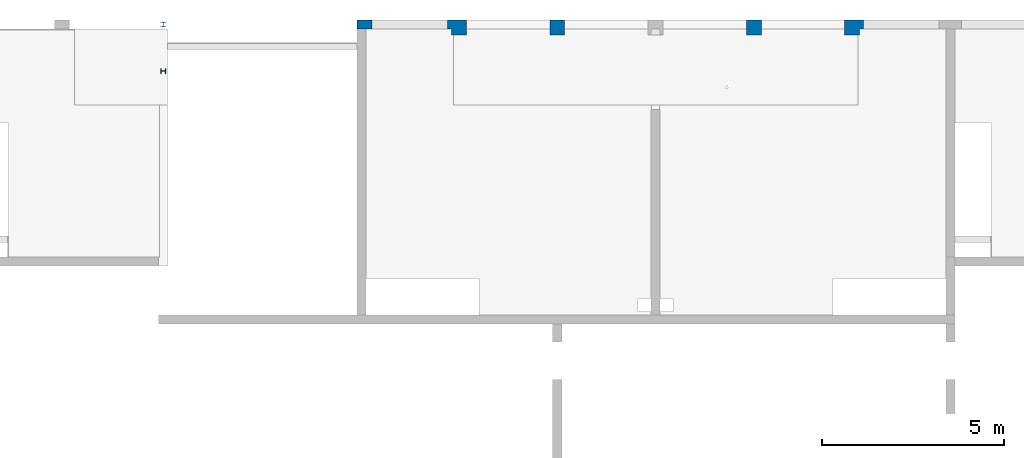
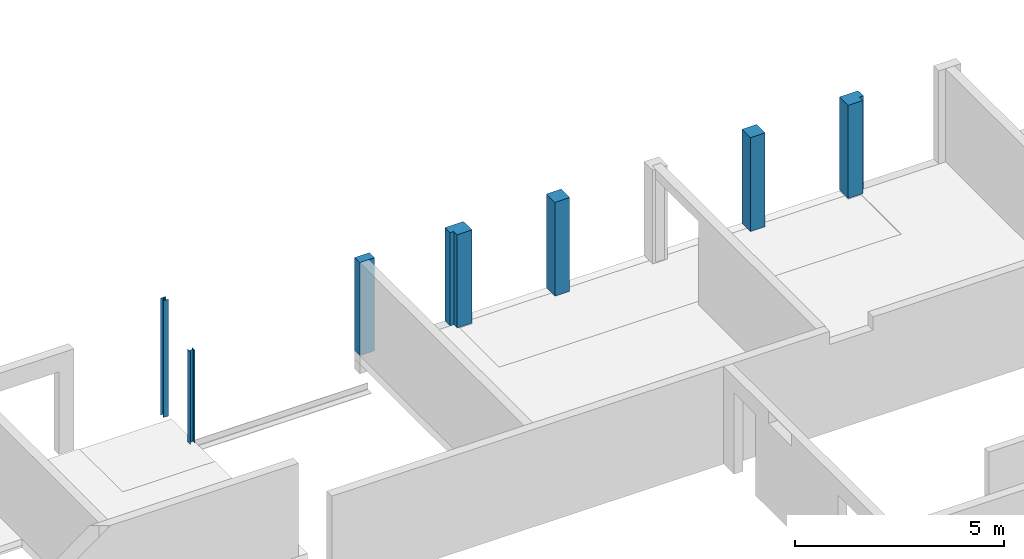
# One storey, part 4 of 22: 7 columns.
"""IFC2X3 building model written with IfcOpenShell, lengths in millimetres."""

from ifc_helpers import new_model, entity, si_unit, converted_unit, derived_unit, direction, frame, frame_2d, origin, origin_2d_with_axis, place, context, subcontext, project, spatial, polyline, circle_curve, parameter, trimmed, segment, composite_curve, rectangle, i_section, outline, extrude, source, transform, mapped, material, type_object, type_shapes, element, save


model = new_model("IFC2X3")

# Units and contexts
model_context = context("Model", 3, precision=0.01, world=origin(), true_north=direction((6.12303176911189e-17, 1.0)))
body_context = subcontext(model_context, "Body", "Model", "MODEL_VIEW")
ifc_project = project(units=[si_unit("LENGTHUNIT", "METRE", prefix="MILLI"), si_unit("AREAUNIT", "SQUARE_METRE"), si_unit("VOLUMEUNIT", "CUBIC_METRE"), converted_unit("PLANEANGLEUNIT", "DEGREE", entity("IfcRatioMeasure", 0.0174532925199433), si_unit("PLANEANGLEUNIT", "RADIAN"), dimensions=[0, 0, 0, 0, 0, 0, 0]), si_unit("MASSUNIT", "GRAM", prefix="KILO"), derived_unit("MASSDENSITYUNIT", [(si_unit("MASSUNIT", "GRAM", prefix="KILO"), 1), (si_unit("LENGTHUNIT", "METRE"), -3)]), si_unit("TIMEUNIT", "SECOND"), si_unit("FREQUENCYUNIT", "HERTZ"), si_unit("THERMODYNAMICTEMPERATUREUNIT", "DEGREE_CELSIUS"), derived_unit("THERMALTRANSMITTANCEUNIT", [(si_unit("MASSUNIT", "GRAM", prefix="KILO"), 1), (si_unit("THERMODYNAMICTEMPERATUREUNIT", "KELVIN"), -1), (si_unit("TIMEUNIT", "SECOND"), -3)]), derived_unit("VOLUMETRICFLOWRATEUNIT", [(si_unit("LENGTHUNIT", "METRE"), 3), (si_unit("TIMEUNIT", "SECOND"), -1)]), si_unit("ELECTRICCURRENTUNIT", "AMPERE"), si_unit("ELECTRICVOLTAGEUNIT", "VOLT"), si_unit("POWERUNIT", "WATT"), si_unit("FORCEUNIT", "NEWTON", prefix="KILO"), si_unit("ILLUMINANCEUNIT", "LUX"), si_unit("LUMINOUSFLUXUNIT", "LUMEN"), si_unit("LUMINOUSINTENSITYUNIT", "CANDELA"), derived_unit("USERDEFINED", [(si_unit("MASSUNIT", "GRAM", prefix="KILO"), -1), (si_unit("LENGTHUNIT", "METRE"), -2), (si_unit("TIMEUNIT", "SECOND"), 3), (si_unit("LUMINOUSFLUXUNIT", "LUMEN"), 1)]), derived_unit("LINEARVELOCITYUNIT", [(si_unit("LENGTHUNIT", "METRE"), 1), (si_unit("TIMEUNIT", "SECOND"), -1)]), si_unit("PRESSUREUNIT", "PASCAL"), derived_unit("USERDEFINED", [(si_unit("LENGTHUNIT", "METRE"), -2), (si_unit("MASSUNIT", "GRAM", prefix="KILO"), 1), (si_unit("TIMEUNIT", "SECOND"), -2)])], contexts=[model_context])

# Site, building, storey
site_placement = place(None, origin())
site = spatial("IfcSite", under=ifc_project, at=site_placement, Name="Default", CompositionType="ELEMENT")
building_placement = place(site_placement, origin())
building = spatial("IfcBuilding", under=site, at=building_placement, Name="niet gebruiken", CompositionType="ELEMENT")
storey_placement = place(building_placement, frame((0.0, 0.0, 9630.0)))
storey = spatial("IfcBuildingStorey", under=building, at=storey_placement, Name="03 derde verdieping", CompositionType="ELEMENT", Elevation=9630.00000000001)

# Columns
ifc_material_1 = material(Name="NLRS_f2_beton ihwg")
column_type_1 = type_object("IfcColumnType", Name="410x410", PredefinedType="COLUMN", material=ifc_material_1)
shared_shape_1 = source(origin(), body_context, "Body", "SweptSolid", [
    extrude(rectangle(XDim=410.000000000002, YDim=410.000000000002, at=origin_2d_with_axis()), frame((43200.0, 53051.0, 9520.0), z_axis=(0.0, 0.0, 1.0), x_axis=(0.0, -1.0, 0.0)), (0.0, 0.0, 1.0), 2740.0),
])
type_shapes(column_type_1, [shared_shape_1])
column_1_placement = place(storey_placement, frame((0.0, 0.0, -9630.0)))
element("IfcColumn", 1, at=column_1_placement, inside=storey, type_object=column_type_1, material=ifc_material_1, Name="NLRS_28.11_SCO_TLB_beton kolom ihwg_gen:410x410", ObjectType="410x410", context=body_context, shape_type="MappedRepresentation", body=[
    mapped(shared_shape_1, transform((0.0, 0.0, 0.0), scale=1.0)),
])
column_type_2 = type_object("IfcColumnType", Name="410x410", PredefinedType="COLUMN", material=ifc_material_1)
shared_shape_2 = source(origin(), body_context, "Body", "SweptSolid", [
    extrude(rectangle(XDim=410.000000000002, YDim=409.999999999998, at=frame_2d((-8.66862137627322e-12, 0.0), x_axis=(1.0, 0.0))), frame((37800.0, 53051.0, 9520.0), z_axis=(0.0, 0.0, 1.0), x_axis=(0.0, -1.0, 0.0)), (0.0, 0.0, 1.0), 2740.0),
])
type_shapes(column_type_2, [shared_shape_2])
column_2_placement = place(storey_placement, frame((0.0, 0.0, -9630.0)))
element("IfcColumn", 2, at=column_2_placement, inside=storey, type_object=column_type_2, material=ifc_material_1, Name="NLRS_28.11_SCO_TLB_beton kolom ihwg_gen:410x410", ObjectType="410x410", context=body_context, shape_type="MappedRepresentation", body=[
    mapped(shared_shape_2, transform((0.0, 0.0, 0.0), scale=1.0)),
])
column_type_3 = type_object("IfcColumnType", Name="515x410/105x160", PredefinedType="COLUMN", material=ifc_material_1)
shared_shape_3 = source(origin(), body_context, "Body", "SweptSolid", [
    extrude(outline(polyline([(-220.0, -308.333333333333), (190.0, -308.333333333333), (190.0, 101.66666666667), (30.0, 101.66666666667), (30.0, 206.666666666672), (-220.0, 206.666666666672), (-220.0, -308.333333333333)])), frame((46003.3333333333, 53036.0, 9540.0), z_axis=(0.0, 0.0, 1.0), x_axis=(0.0, -1.0, 0.0)), (0.0, 0.0, 1.0), 2720.0),
])
type_shapes(column_type_3, [shared_shape_3])
column_3_placement = place(storey_placement, frame((0.0, 0.0, -9630.0)))
element("IfcColumn", 3, at=column_3_placement, inside=storey, type_object=column_type_3, material=ifc_material_1, Name="NLRS_28.11_SCO_TLB_beton kolom ihwg enkele sponning_gen:515x410/105x160", ObjectType="515x410/105x160", context=body_context, shape_type="MappedRepresentation", body=[
    mapped(shared_shape_3, transform((0.0, 0.0, 0.0), scale=1.0)),
])
column_type_4 = type_object("IfcColumnType", Name="410x250", PredefinedType="COLUMN", material=ifc_material_1)
shared_shape_4 = source(origin(), body_context, "Body", "SweptSolid", [
    extrude(rectangle(XDim=250.000000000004, YDim=409.999999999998, at=origin_2d_with_axis()), frame((32505.0, 53131.0, 9540.0), z_axis=(0.0, 0.0, 1.0), x_axis=(0.0, -1.0, 0.0)), (0.0, 0.0, 1.0), 2720.0),
])
type_shapes(column_type_4, [shared_shape_4])
column_4_placement = place(storey_placement, frame((0.0, 0.0, -9630.0)))
element("IfcColumn", 4, at=column_4_placement, inside=storey, type_object=column_type_4, material=ifc_material_1, Name="NLRS_28.11_SCO_TLB_beton kolom ihwg_gen:410x250", ObjectType="410x250", context=body_context, shape_type="MappedRepresentation", body=[
    mapped(shared_shape_4, transform((0.0, 0.0, 0.0), scale=1.0)),
])
column_type_5 = type_object("IfcColumnType", Name="515x410/105x160", PredefinedType="COLUMN", material=ifc_material_1)
shared_shape_5 = source(origin(), body_context, "Body", "SweptSolid", [
    extrude(outline(polyline([(-220.0, -206.666666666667), (30.0, -206.666666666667), (30.0, -101.666666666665), (190.0, -101.66666666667), (190.0, 308.333333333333), (-220.0, 308.333333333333), (-220.0, -206.666666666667)])), frame((34996.6666666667, 53036.0, 9540.0), z_axis=(0.0, 0.0, 1.0), x_axis=(0.0, -1.0, 0.0)), (0.0, 0.0, 1.0), 2720.0),
])
type_shapes(column_type_5, [shared_shape_5])
column_5_placement = place(storey_placement, frame((0.0, 0.0, -9630.0)))
element("IfcColumn", 5, at=column_5_placement, inside=storey, type_object=column_type_5, material=ifc_material_1, Name="NLRS_28.11_SCO_TLB_beton kolom ihwg enkele sponning_gen:515x410/105x160", ObjectType="515x410/105x160", context=body_context, shape_type="MappedRepresentation", body=[
    mapped(shared_shape_5, transform((0.0, 0.0, 0.0), scale=1.0)),
])
ifc_material_2 = material(Name="NLRS_h2_staal")
column_type_6 = type_object("IfcColumnType", Name="kolom HEA 140", PredefinedType="COLUMN", material=ifc_material_2)
shared_shape_6 = source(origin(), body_context, "Body", "SweptSolid", [
    extrude(outline(composite_curve([segment(polyline([(58.0, -70.0), (66.4999999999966, -70.0)]), True, "CONTINUOUS"), segment(polyline([(66.4999999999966, -70.0), (66.4999999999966, 70.0)]), True, "CONTINUOUS"), segment(polyline([(66.4999999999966, 70.0), (58.0, 70.0)]), True, "CONTINUOUS"), segment(polyline([(58.0, 70.0), (58.0, 14.7499999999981)]), True, "CONTINUOUS"), segment(trimmed(circle_curve(frame_2d((46.0, 14.7499999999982), x_axis=(1.0, 0.0)), 12.0), [parameter(270.0)], [parameter(0.0)], True, "PARAMETER"), False, "CONTINUOUS"), segment(polyline([(46.0, 2.74999999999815), (-46.0, 2.74999999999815)]), True, "CONTINUOUS"), segment(trimmed(circle_curve(frame_2d((-46.0, 14.7499999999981), x_axis=(0.0, -1.0)), 12.0), [parameter(270.0)], [parameter(0.0)], True, "PARAMETER"), False, "CONTINUOUS"), segment(polyline([(-58.0, 14.7499999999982), (-58.0, 70.0)]), True, "CONTINUOUS"), segment(polyline([(-58.0, 70.0), (-66.4999999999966, 70.0)]), True, "CONTINUOUS"), segment(polyline([(-66.4999999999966, 70.0), (-66.4999999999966, -70.0)]), True, "CONTINUOUS"), segment(polyline([(-66.4999999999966, -70.0), (-58.0, -70.0)]), True, "CONTINUOUS"), segment(polyline([(-58.0, -70.0), (-58.0, -14.7500000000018)]), True, "CONTINUOUS"), segment(trimmed(circle_curve(frame_2d((-46.0, -14.7500000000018), x_axis=(-1.0, 0.0)), 12.0), [parameter(270.0)], [parameter(0.0)], True, "PARAMETER"), False, "CONTINUOUS"), segment(polyline([(-46.0, -2.75000000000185), (46.0, -2.75000000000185)]), True, "CONTINUOUS"), segment(trimmed(circle_curve(frame_2d((46.0, -14.7500000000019), x_axis=(0.0, 1.0)), 12.0), [parameter(270.0)], [parameter(0.0)], True, "PARAMETER"), False, "CONTINUOUS"), segment(polyline([(58.0, -14.7500000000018), (58.0, -70.0)]), True, "CONTINUOUS")], self_intersect=False)), frame((0.0, 0.0, 9585.0), z_axis=(0.0, 0.0, 1.0), x_axis=(0.0, -1.0, 0.0)), (0.0, 0.0, 1.0), 3415.0),
])
type_shapes(column_type_6, [shared_shape_6])
column_6_placement = place(storey_placement, frame((26975.0, 53131.0, -9630.0), z_axis=(0.0, 0.0, 1.0), x_axis=(-1.0, 0.0, 0.0)))
element("IfcColumn", 6, at=column_6_placement, inside=storey, type_object=column_type_6, material=ifc_material_2, Name="NLRS_28.11_SCO_TLB_stalen kolom HEA_gen:kolom HEA 140", ObjectType="kolom HEA 140", context=body_context, shape_type="MappedRepresentation", body=[
    mapped(shared_shape_6, transform((0.0, 0.0, 0.0), scale=1.0)),
])
column_type_7 = type_object("IfcColumnType", Name="kolom HEA 140", PredefinedType="COLUMN", material=ifc_material_2)
shared_shape_7 = source(origin(), body_context, "Body", "SweptSolid", [
    extrude(i_section(OverallWidth=140.000000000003, OverallDepth=132.999999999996, WebThickness=5.49999999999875, FlangeThickness=8.49999999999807, FilletRadius=11.9999999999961, at=frame_2d((1.29958266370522e-11, 0.0), x_axis=(1.0, 0.0))), frame((26975.0, 51853.5009765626, 9585.0), z_axis=(0.0, 0.0, 1.0), x_axis=(0.0, -1.0, 0.0)), (0.0, 0.0, 1.0), 2695.0),
])
type_shapes(column_type_7, [shared_shape_7])
column_7_placement = place(storey_placement, frame((0.0, 0.0, -9630.0)))
element("IfcColumn", 7, at=column_7_placement, inside=storey, type_object=column_type_7, material=ifc_material_2, Name="NLRS_28.11_SCO_TLB_stalen kolom HEA_gen:kolom HEA 140", ObjectType="kolom HEA 140", context=body_context, shape_type="MappedRepresentation", body=[
    mapped(shared_shape_7, transform((0.0, 0.0, 0.0), scale=1.0)),
])

save(model, "model.ifc")
